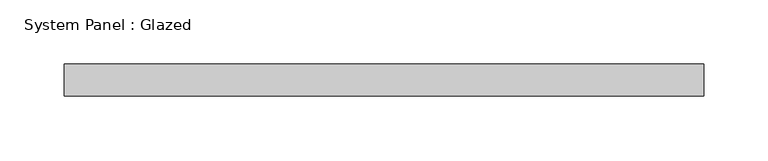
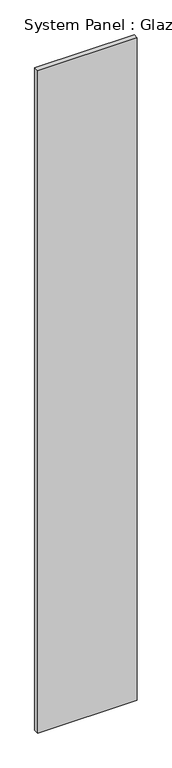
"""IFC4 building model written with IfcOpenShell, lengths in millimetres: plate geometry, System Panel : Glazed."""

from ifc_helpers import new_model, si_unit, origin, origin_with_axes, place, context, project, spatial, polyline, outline, extrude, source, transform, mapped, element, save


def system_panel_glazed_2140e779(model_context):
    return source(origin(), model_context, "Body", "SweptSolid", [
        extrude(outline(polyline([(249.1098401, 24.5), (-249.1098401, 24.5), (-249.1098401, 49.5), (249.1098401, 49.5), (249.1098401, 24.5)])), origin_with_axes(), (0.0, 0.0, 1.0), 3500.0),
    ])


if __name__ == "__main__":
    model = new_model("IFC4")
    model_context = context("Model", 3, world=origin())
    ifc_project = project(units=[si_unit("LENGTHUNIT", "METRE", prefix="MILLI")], contexts=[model_context])
    site = spatial("IfcSite", under=ifc_project)
    building = spatial("IfcBuilding", under=site)
    placement = place(None, origin())
    system_panel_glazed_shape = system_panel_glazed_2140e779(model_context)
    element("IfcPlate", 1, ObjectType="System Panel : Glazed", at=placement, inside=building, context=model_context, shape_type="MappedRepresentation", body=[
        mapped(system_panel_glazed_shape, transform((0.0, 0.0, 0.0), x_axis=(1.0, 0.0, 0.0), y_axis=(0.0, 1.0, 0.0), z_axis=(0.0, 0.0, 1.0))),
    ])
    save(model, "model.ifc")
